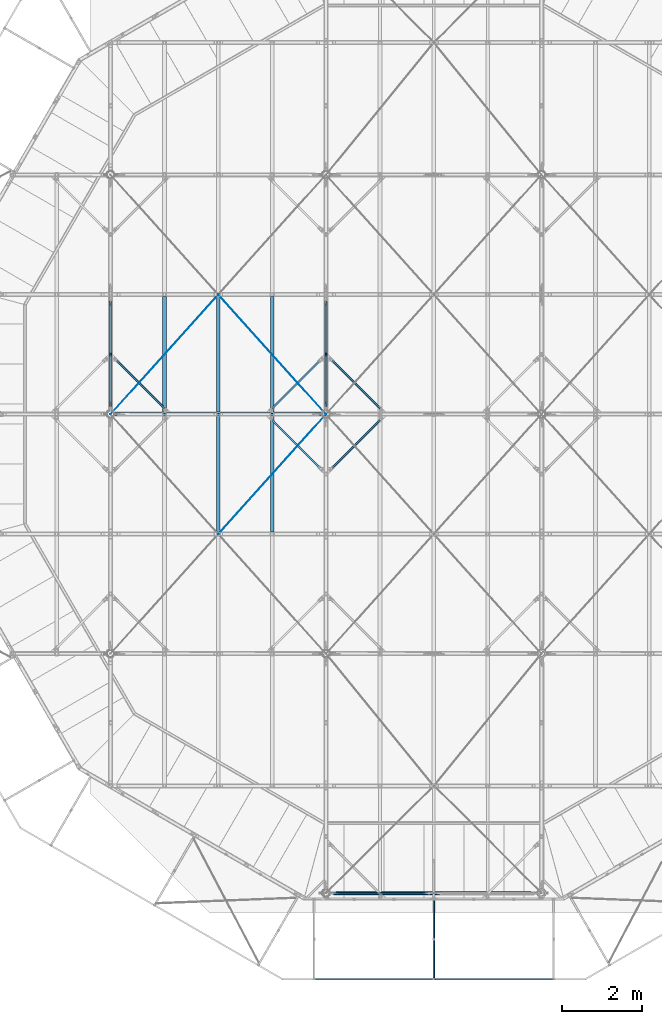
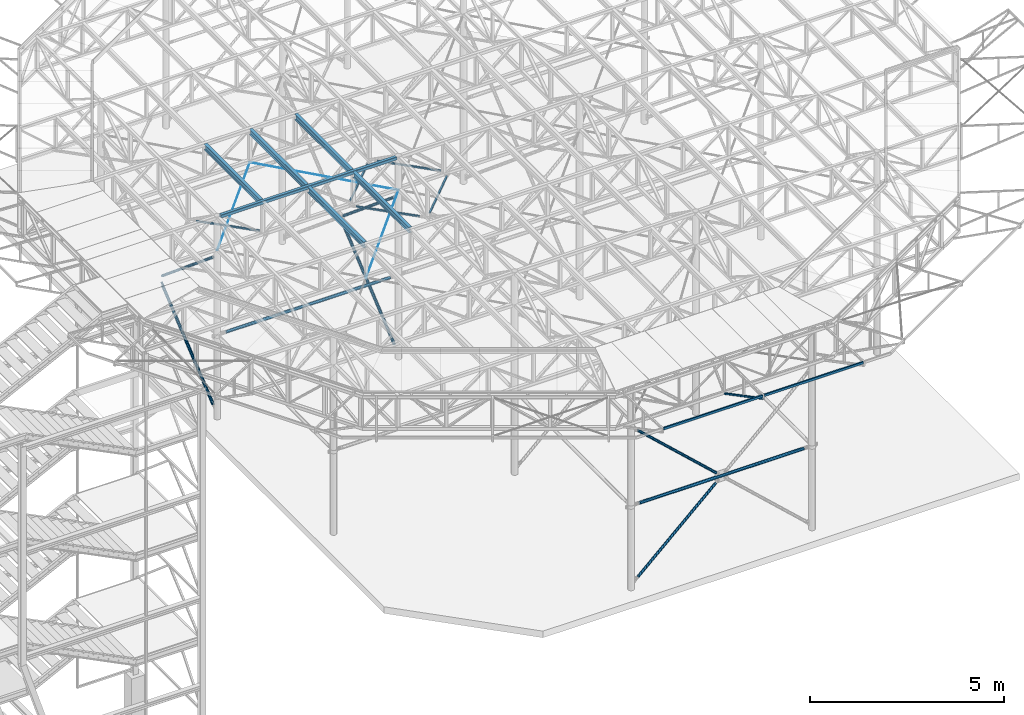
# One storey, part 10 of 132: 18 beams, 9 members, 27 elements without a shape of their own.
"""IFC2X3 building model written with IfcOpenShell, lengths in millimetres."""

from ifc_helpers import new_model, si_unit, frame, origin_with_axes, origin_2d_with_axis, place, context, subcontext, project, spatial, rectangle, hollow_rectangle, circle, hollow_circle, i_section, u_section, extrude, boolean, clip, halfspace, material, type_object, element, aggregate, save


model = new_model("IFC2X3")

# Units and contexts
model_context = context("Model", 3, precision=1e-05, world=origin_with_axes())
body_context = subcontext(model_context, "Body", "Model", "MODEL_VIEW")
ifc_project = project(units=[si_unit("LENGTHUNIT", "METRE", prefix="MILLI"), si_unit("AREAUNIT", "SQUARE_METRE"), si_unit("VOLUMEUNIT", "CUBIC_METRE"), si_unit("MASSUNIT", "GRAM", prefix="KILO"), si_unit("TIMEUNIT", "SECOND"), si_unit("PLANEANGLEUNIT", "RADIAN"), si_unit("SOLIDANGLEUNIT", "STERADIAN"), si_unit("THERMODYNAMICTEMPERATUREUNIT", "DEGREE_CELSIUS"), si_unit("LUMINOUSINTENSITYUNIT", "LUMEN")], contexts=[model_context])

# Site, building, storey
site_placement = place(None, origin_with_axes())
site = spatial("IfcSite", under=ifc_project, at=site_placement, Name="Budowa", CompositionType="ELEMENT")
building_placement = place(site_placement, origin_with_axes())
building = spatial("IfcBuilding", under=site, at=building_placement, Name="Undefined", CompositionType="ELEMENT")
storey_placement = place(building_placement, origin_with_axes())
storey = spatial("IfcBuildingStorey", under=building, at=storey_placement, Name="Undefined", CompositionType="ELEMENT", Elevation=0.0)

# Assembly, member
assembly_1_placement = place(storey_placement, origin_with_axes())
assembly_1 = element("IfcElementAssembly", 1, at=assembly_1_placement, inside=storey, Name="Steel Assembly", AssemblyPlace="NOTDEFINED", PredefinedType="RIGID_FRAME")
ifc_material_1 = material(Name="STEEL/S235JR")
member_type_1 = type_object("IfcMemberType", Name="CHS76.1*3", PredefinedType="NOTDEFINED")
member_1_placement = place(assembly_1_placement, frame((4016.9999973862, 15000.0003165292, 10116.000758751), z_axis=(1.0, 0.0, 0.0), x_axis=(0.0, -0.76906919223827, 0.639165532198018)))
member_1 = element("IfcMember", 2, at=member_1_placement, type_object=member_type_1, material=ifc_material_1, Name="BEAM", ObjectType="CHS76.1*3", context=body_context, shape_type="CSG", body=[
    boolean("DIFFERENCE", boolean("DIFFERENCE", boolean("DIFFERENCE", boolean("DIFFERENCE", extrude(hollow_circle(Radius=38.05, WallThickness=3.0, at=origin_2d_with_axis()), frame((3633.55016925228, 2.01702552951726e-13, 0.0), z_axis=(-1.0, 0.0, 0.0), x_axis=(0.0, -1.0, 0.0)), (0.0, 0.0, 1.0), 3395.69), extrude(rectangle(XDim=10.0, YDim=80.1, at=origin_2d_with_axis()), frame((318.860379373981, -4.43045600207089e-12, 2.01593366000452e-06), z_axis=(-1.0, 0.0, 0.0), x_axis=(0.0, 0.0, 1.0)), (0.0, 0.0, 1.0), 83.0)), extrude(rectangle(XDim=10.0, YDim=78.0, at=origin_2d_with_axis()), frame((3552.55016925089, 7.63649267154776e-08, 2.41727320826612e-06), z_axis=(1.0, 0.0, 0.0), x_axis=(0.0, 0.0, -1.0)), (0.0, 0.0, 1.0), 93.0)), halfspace(frame((3633.55016925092, 7.63648131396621e-08, 12.0000024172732), z_axis=(-1.0, 0.0, 0.0), x_axis=(0.0, 0.0, -1.0)), True)), halfspace(frame((237.860375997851, -1.09139364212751e-11, 12.0000032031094), z_axis=(1.0, 0.0, 0.0), x_axis=(0.0, 1.0, 0.0)), True)),
])
aggregate(assembly_1, [member_1])

assembly_2_placement = place(storey_placement, origin_with_axes())
assembly_2 = element("IfcElementAssembly", 3, at=assembly_2_placement, inside=storey, Name="Steel Assembly", AssemblyPlace="NOTDEFINED", PredefinedType="RIGID_FRAME")
member_2_placement = place(assembly_2_placement, frame((4016.99999738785, 15000.0012512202, 10116.0002562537), z_axis=(1.0, 0.0, 0.0), x_axis=(0.0, -0.769069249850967, -0.639165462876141)))
member_2 = element("IfcMember", 4, at=member_2_placement, type_object=member_type_1, material=ifc_material_1, Name="BEAM", ObjectType="CHS76.1*3", context=body_context, shape_type="CSG", body=[
    boolean("DIFFERENCE", boolean("DIFFERENCE", boolean("DIFFERENCE", boolean("DIFFERENCE", extrude(hollow_circle(Radius=38.05, WallThickness=3.0, at=origin_2d_with_axis()), frame((3633.55110961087, 0.0, 0.0), z_axis=(-1.0, 0.0, 0.0), x_axis=(0.0, -1.0, 0.0)), (0.0, 0.0, 1.0), 3395.69), extrude(rectangle(XDim=10.0, YDim=80.1, at=origin_2d_with_axis()), frame((318.860805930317, -8.477663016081e-13, 1.74539309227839e-06), z_axis=(-1.0, 0.0, 0.0), x_axis=(0.0, 0.0, 1.0)), (0.0, 0.0, 1.0), 83.0)), extrude(rectangle(XDim=10.0, YDim=78.0, at=origin_2d_with_axis()), frame((3552.55110960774, 4.53202460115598e-07, 2.41760790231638e-06), z_axis=(1.0, 0.0, 0.0), x_axis=(0.0, 0.0, -1.0)), (0.0, 0.0, 1.0), 93.0)), halfspace(frame((3633.55110960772, 4.53187567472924e-07, 12.0000024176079), z_axis=(-1.0, 0.0, 0.0), x_axis=(0.0, 0.0, -1.0)), True)), halfspace(frame((237.860802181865, 1.2732925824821e-11, 12.0000029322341), z_axis=(1.0, 0.0, 0.0), x_axis=(0.0, 1.0, 0.0)), True)),
])
aggregate(assembly_2, [member_2])

assembly_3_placement = place(storey_placement, origin_with_axes())
assembly_3 = element("IfcElementAssembly", 5, at=assembly_3_placement, inside=storey, Name="Steel Assembly", AssemblyPlace="NOTDEFINED", PredefinedType="RIGID_FRAME")
member_3_placement = place(assembly_3_placement, frame((9416.99999736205, 15000.0003165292, 10116.000758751), z_axis=(1.0, 0.0, 0.0), x_axis=(0.0, -0.76906919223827, 0.639165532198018)))
member_3 = element("IfcMember", 6, at=member_3_placement, type_object=member_type_1, material=ifc_material_1, Name="BEAM", ObjectType="CHS76.1*3", context=body_context, shape_type="CSG", body=[
    boolean("DIFFERENCE", boolean("DIFFERENCE", boolean("DIFFERENCE", boolean("DIFFERENCE", extrude(hollow_circle(Radius=38.05, WallThickness=3.0, at=origin_2d_with_axis()), frame((3633.55016925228, 2.01702552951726e-13, 0.0), z_axis=(-1.0, 0.0, 0.0), x_axis=(0.0, -1.0, 0.0)), (0.0, 0.0, 1.0), 3395.69), extrude(rectangle(XDim=10.0, YDim=80.1, at=origin_2d_with_axis()), frame((318.860379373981, -4.43045600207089e-12, 2.01593366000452e-06), z_axis=(-1.0, 0.0, 0.0), x_axis=(0.0, 0.0, 1.0)), (0.0, 0.0, 1.0), 83.0)), extrude(rectangle(XDim=10.0, YDim=78.0, at=origin_2d_with_axis()), frame((3552.55016925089, 7.63649267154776e-08, 2.41727320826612e-06), z_axis=(1.0, 0.0, 0.0), x_axis=(0.0, 0.0, -1.0)), (0.0, 0.0, 1.0), 93.0)), halfspace(frame((3633.55016925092, 7.63648131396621e-08, 12.0000024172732), z_axis=(-1.0, 0.0, 0.0), x_axis=(0.0, 0.0, -1.0)), True)), halfspace(frame((237.860375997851, -1.09139364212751e-11, 12.0000032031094), z_axis=(1.0, 0.0, 0.0), x_axis=(0.0, 1.0, 0.0)), True)),
])
aggregate(assembly_3, [member_3])

assembly_4_placement = place(storey_placement, origin_with_axes())
assembly_4 = element("IfcElementAssembly", 7, at=assembly_4_placement, inside=storey, Name="Steel Assembly", AssemblyPlace="NOTDEFINED", PredefinedType="RIGID_FRAME")
member_4_placement = place(assembly_4_placement, frame((9416.9999973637, 15000.0012512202, 10116.0002562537), z_axis=(1.0, 0.0, 0.0), x_axis=(0.0, -0.769069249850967, -0.639165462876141)))
member_4 = element("IfcMember", 8, at=member_4_placement, type_object=member_type_1, material=ifc_material_1, Name="BEAM", ObjectType="CHS76.1*3", context=body_context, shape_type="CSG", body=[
    boolean("DIFFERENCE", boolean("DIFFERENCE", boolean("DIFFERENCE", boolean("DIFFERENCE", extrude(hollow_circle(Radius=38.05, WallThickness=3.0, at=origin_2d_with_axis()), frame((3633.55110961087, 0.0, 0.0), z_axis=(-1.0, 0.0, 0.0), x_axis=(0.0, -1.0, 0.0)), (0.0, 0.0, 1.0), 3395.69), extrude(rectangle(XDim=10.0, YDim=80.1, at=origin_2d_with_axis()), frame((318.860805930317, -8.477663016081e-13, 1.74539309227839e-06), z_axis=(-1.0, 0.0, 0.0), x_axis=(0.0, 0.0, 1.0)), (0.0, 0.0, 1.0), 83.0)), extrude(rectangle(XDim=10.0, YDim=78.0, at=origin_2d_with_axis()), frame((3552.55110960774, 4.53202460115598e-07, 2.41760790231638e-06), z_axis=(1.0, 0.0, 0.0), x_axis=(0.0, 0.0, -1.0)), (0.0, 0.0, 1.0), 93.0)), halfspace(frame((3633.55110960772, 4.53187567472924e-07, 12.0000024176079), z_axis=(-1.0, 0.0, 0.0), x_axis=(0.0, 0.0, -1.0)), True)), halfspace(frame((237.860802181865, 1.2732925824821e-11, 12.0000029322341), z_axis=(1.0, 0.0, 0.0), x_axis=(0.0, 1.0, 0.0)), True)),
])
aggregate(assembly_4, [member_4])

assembly_5_placement = place(storey_placement, origin_with_axes())
assembly_5 = element("IfcElementAssembly", 9, at=assembly_5_placement, inside=storey, Name="Steel Assembly", AssemblyPlace="NOTDEFINED", PredefinedType="RIGID_FRAME")
member_5_placement = place(assembly_5_placement, frame((12125.000921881, -9.99999994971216, 10115.9999960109), z_axis=(0.0, -1.0, 0.0), x_axis=(-0.734552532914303, 0.0, -0.67855182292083)))
member_5 = element("IfcMember", 10, at=member_5_placement, type_object=member_type_1, material=ifc_material_1, Name="BEAM", ObjectType="CHS76.1*3", context=body_context, shape_type="CSG", body=[
    boolean("DIFFERENCE", boolean("DIFFERENCE", boolean("DIFFERENCE", boolean("DIFFERENCE", extrude(hollow_circle(Radius=38.05, WallThickness=3.0, at=origin_2d_with_axis()), frame((3399.19882110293, 0.0, 0.0), z_axis=(-1.0, 0.0, 0.0), x_axis=(0.0, -1.0, 0.0)), (0.0, 0.0, 1.0), 3169.77), extrude(rectangle(XDim=10.0, YDim=80.1, at=origin_2d_with_axis()), frame((310.424006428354, -6.75809408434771e-12, 2.93223274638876e-06), z_axis=(-1.0, 0.0, 0.0), x_axis=(0.0, 0.0, -1.0)), (0.0, 0.0, 1.0), 83.0)), extrude(rectangle(XDim=10.0, YDim=78.1, at=origin_2d_with_axis()), frame((3318.19882110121, -3.83376469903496e-07, 2.42306487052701e-06), z_axis=(1.0, 0.0, 0.0), x_axis=(0.0, 0.0, -1.0)), (0.0, 0.0, 1.0), 93.0)), halfspace(frame((3399.19882110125, -3.83374754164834e-07, -11.9999975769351), z_axis=(-1.0, 0.0, 0.0), x_axis=(0.0, 1.0, 0.0)), True)), halfspace(frame((229.424006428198, -7.27595761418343e-12, -11.9999970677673), z_axis=(1.0, 0.0, 0.0), x_axis=(0.0, -1.0, 0.0)), True)),
])
aggregate(assembly_5, [member_5])

assembly_6_placement = place(storey_placement, origin_with_axes())
assembly_6 = element("IfcElementAssembly", 11, at=assembly_6_placement, inside=storey, Name="Steel Assembly", AssemblyPlace="NOTDEFINED", PredefinedType="RIGID_FRAME")
member_6_placement = place(assembly_6_placement, frame((9565.9011839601, -9.99999994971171, 12480.0002212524), z_axis=(0.0, -1.0, 0.0), x_axis=(0.734552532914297, 0.0, -0.678551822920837)))
member_6 = element("IfcMember", 12, at=member_6_placement, type_object=member_type_1, material=ifc_material_1, Name="BEAM", ObjectType="CHS76.1*3", context=body_context, shape_type="CSG", body=[
    boolean("DIFFERENCE", boolean("DIFFERENCE", boolean("DIFFERENCE", boolean("DIFFERENCE", extrude(hollow_circle(Radius=38.05, WallThickness=3.0, at=origin_2d_with_axis()), frame((3254.46533546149, 0.0, 0.0), z_axis=(-1.0, 0.0, 0.0), x_axis=(0.0, -1.0, 0.0)), (0.0, 0.0, 1.0), 3169.77), extrude(rectangle(XDim=10.0, YDim=80.1, at=origin_2d_with_axis()), frame((3173.46533545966, 5.74262859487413e-12, 3.21735569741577e-06), z_axis=(1.0, 0.0, 0.0), x_axis=(0.0, 0.0, -1.0)), (0.0, 0.0, 1.0), 83.0)), extrude(rectangle(XDim=10.0, YDim=78.1, at=origin_2d_with_axis()), frame((165.690516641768, -1.58151269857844e-12, 2.52268364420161e-06), z_axis=(-1.0, 0.0, 0.0), x_axis=(0.0, 0.0, -1.0)), (0.0, 0.0, 1.0), 93.0)), halfspace(frame((3254.46533545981, 3.63797880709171e-12, -11.9999967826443), z_axis=(-1.0, 0.0, 0.0), x_axis=(0.0, 1.0, 0.0)), True)), halfspace(frame((84.6905166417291, 1.81898940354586e-12, -11.9999974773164), z_axis=(1.0, 0.0, 0.0), x_axis=(0.0, -1.0, 0.0)), True)),
])
aggregate(assembly_6, [member_6])

# Assembly, beam
assembly_7_placement = place(storey_placement, origin_with_axes())
assembly_7 = element("IfcElementAssembly", 13, at=assembly_7_placement, inside=storey, Name="Steel Assembly", AssemblyPlace="NOTDEFINED", PredefinedType="RIGID_FRAME")
beam_type_1 = type_object("IfcBeamType", Name="CHS88.9*3", PredefinedType="NOTDEFINED")
beam_1_placement = place(assembly_7_placement, frame((4113.90113815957, 11998.0000028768, 10116.0003779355), z_axis=(0.0, -1.0, 0.0), x_axis=(1.0, 0.0, 0.0)))
beam_1 = element("IfcBeam", 14, at=beam_1_placement, type_object=beam_type_1, material=ifc_material_1, Name="BEAM", ObjectType="CHS88.9*3", context=body_context, shape_type="CSG", body=[
    boolean("DIFFERENCE", boolean("DIFFERENCE", boolean("DIFFERENCE", boolean("DIFFERENCE", boolean("DIFFERENCE", extrude(hollow_circle(Radius=44.45, WallThickness=3.0, at=origin_2d_with_axis()), frame((5057.96216744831, 0.0, 0.0), z_axis=(-1.0, 0.0, 0.0), x_axis=(0.0, -1.0, 0.0)), (0.0, 0.0, 1.0), 4893.73), extrude(rectangle(XDim=9.0, YDim=92.9, at=origin_2d_with_axis()), frame((265.235555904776, 1.81898940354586e-12, 3.42543353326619e-06), z_axis=(-1.0, 0.0, 0.0), x_axis=(0.0, 0.0, 1.0)), (0.0, 0.0, 1.0), 103.0)), extrude(rectangle(XDim=9.0, YDim=92.9, at=origin_2d_with_axis()), frame((4956.96216744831, 1.81898940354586e-12, 3.42543353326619e-06), z_axis=(1.0, 0.0, 0.0), x_axis=(0.0, 0.0, -1.0)), (0.0, 0.0, 1.0), 103.0)), extrude(rectangle(XDim=8.0, YDim=80.1, at=origin_2d_with_axis()), frame((5006.96216666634, 0.0, 2.93223274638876e-06), z_axis=(1.0, 0.0, 0.0), x_axis=(0.0, 0.0, 1.0)), (0.0, 0.0, 1.0), 82.0)), halfspace(frame((5057.96216744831, 1.81898940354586e-12, -11.9999965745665), z_axis=(-1.0, 0.0, 0.0), x_axis=(0.0, 1.0, 0.0)), True)), halfspace(frame((164.235555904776, 1.81898940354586e-12, -11.9999965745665), z_axis=(1.0, 0.0, 0.0), x_axis=(0.0, 0.0, 1.0)), True)),
])
aggregate(assembly_7, [beam_1])

assembly_8_placement = place(storey_placement, origin_with_axes())
assembly_8 = element("IfcElementAssembly", 15, at=assembly_8_placement, inside=storey, Name="Steel Assembly", AssemblyPlace="NOTDEFINED", PredefinedType="RIGID_FRAME")
beam_2_placement = place(assembly_8_placement, frame((9513.90113818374, -1.99999712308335, 10116.0003779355), z_axis=(0.0, -1.0, 0.0), x_axis=(1.0, 0.0, 0.0)))
beam_2 = element("IfcBeam", 16, at=beam_2_placement, type_object=beam_type_1, material=ifc_material_1, Name="BEAM", ObjectType="CHS88.9*3", context=body_context, shape_type="CSG", body=[
    boolean("DIFFERENCE", boolean("DIFFERENCE", boolean("DIFFERENCE", boolean("DIFFERENCE", boolean("DIFFERENCE", extrude(hollow_circle(Radius=44.45, WallThickness=3.0, at=origin_2d_with_axis()), frame((5057.96216744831, 0.0, 0.0), z_axis=(-1.0, 0.0, 0.0), x_axis=(0.0, -1.0, 0.0)), (0.0, 0.0, 1.0), 4893.73), extrude(rectangle(XDim=9.0, YDim=92.9, at=origin_2d_with_axis()), frame((265.235555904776, 1.81898940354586e-12, 3.42543353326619e-06), z_axis=(-1.0, 0.0, 0.0), x_axis=(0.0, 0.0, 1.0)), (0.0, 0.0, 1.0), 103.0)), extrude(rectangle(XDim=9.0, YDim=92.9, at=origin_2d_with_axis()), frame((4956.96216744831, 1.81898940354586e-12, 3.42543353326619e-06), z_axis=(1.0, 0.0, 0.0), x_axis=(0.0, 0.0, -1.0)), (0.0, 0.0, 1.0), 103.0)), extrude(rectangle(XDim=8.0, YDim=80.1, at=origin_2d_with_axis()), frame((5006.96216666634, 0.0, 2.93223274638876e-06), z_axis=(1.0, 0.0, 0.0), x_axis=(0.0, 0.0, 1.0)), (0.0, 0.0, 1.0), 82.0)), halfspace(frame((5057.96216744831, 1.81898940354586e-12, -11.9999965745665), z_axis=(-1.0, 0.0, 0.0), x_axis=(0.0, 1.0, 0.0)), True)), halfspace(frame((164.235555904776, 1.81898940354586e-12, -11.9999965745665), z_axis=(1.0, 0.0, 0.0), x_axis=(0.0, 0.0, 1.0)), True)),
])
aggregate(assembly_8, [beam_2])

# Assembly, member
assembly_9_placement = place(storey_placement, origin_with_axes())
assembly_9 = element("IfcElementAssembly", 17, at=assembly_9_placement, inside=storey, Name="Steel Assembly", AssemblyPlace="NOTDEFINED", PredefinedType="RIGID_FRAME")
ifc_material_2 = material(Name="STEEL/S235")
member_type_2 = type_object("IfcMemberType", Name="CHS60.3*6.3", PredefinedType="NOTDEFINED")
member_7_placement = place(assembly_9_placement, frame((4033.00000233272, 15000.0012512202, 10116.0002562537), z_axis=(-1.0, 0.0, 0.0), x_axis=(0.0, -0.769069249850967, -0.639165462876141)))
member_7 = element("IfcMember", 18, at=member_7_placement, type_object=member_type_2, material=ifc_material_2, Name="BEAM", ObjectType="CHS60.3*6.3", context=body_context, shape_type="CSG", body=[
    boolean("DIFFERENCE", boolean("DIFFERENCE", boolean("DIFFERENCE", boolean("DIFFERENCE", extrude(hollow_circle(Radius=30.15, WallThickness=6.3, at=origin_2d_with_axis()), frame((3643.55110941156, 0.0, 0.0), z_axis=(-1.0, 0.0, 0.0), x_axis=(0.0, -1.0, 0.0)), (0.0, 0.0, 1.0), 3497.1), extrude(rectangle(XDim=8.0, YDim=64.3, at=origin_2d_with_axis()), frame((3593.55110940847, -4.69471128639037e-11, 2.68942449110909e-06), z_axis=(1.0, 0.0, 0.0), x_axis=(0.0, 0.0, 1.0)), (0.0, 0.0, 1.0), 52.0)), extrude(rectangle(XDim=8.0, YDim=64.3, at=origin_2d_with_axis()), frame((196.449653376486, -1.06803454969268e-13, 2.32343882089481e-06), z_axis=(-1.0, 0.0, 0.0), x_axis=(0.0, 0.0, 1.0)), (0.0, 0.0, 1.0), 52.0)), halfspace(frame((3643.55110940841, -4.72937244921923e-11, 12.0000026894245), z_axis=(-1.0, 0.0, 0.0), x_axis=(0.0, -1.0, 0.0)), True)), halfspace(frame((146.449653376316, -6.3664629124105e-12, 12.0000023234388), z_axis=(1.0, 0.0, 0.0), x_axis=(0.0, 1.0, 0.0)), True)),
])
aggregate(assembly_9, [member_7])

assembly_10_placement = place(storey_placement, origin_with_axes())
assembly_10 = element("IfcElementAssembly", 19, at=assembly_10_placement, inside=storey, Name="Steel Assembly", AssemblyPlace="NOTDEFINED", PredefinedType="RIGID_FRAME")
member_8_placement = place(assembly_10_placement, frame((9433.00000235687, 15000.0012512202, 10116.0002562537), z_axis=(-1.0, 0.0, 0.0), x_axis=(0.0, -0.769069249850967, -0.639165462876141)))
member_8 = element("IfcMember", 20, at=member_8_placement, type_object=member_type_2, material=ifc_material_2, Name="BEAM", ObjectType="CHS60.3*6.3", context=body_context, shape_type="CSG", body=[
    boolean("DIFFERENCE", boolean("DIFFERENCE", boolean("DIFFERENCE", boolean("DIFFERENCE", extrude(hollow_circle(Radius=30.15, WallThickness=6.3, at=origin_2d_with_axis()), frame((3643.55110941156, 0.0, 0.0), z_axis=(-1.0, 0.0, 0.0), x_axis=(0.0, -1.0, 0.0)), (0.0, 0.0, 1.0), 3497.1), extrude(rectangle(XDim=8.0, YDim=64.3, at=origin_2d_with_axis()), frame((3593.55110940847, -4.69471128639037e-11, 2.68942449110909e-06), z_axis=(1.0, 0.0, 0.0), x_axis=(0.0, 0.0, 1.0)), (0.0, 0.0, 1.0), 52.0)), extrude(rectangle(XDim=8.0, YDim=64.3, at=origin_2d_with_axis()), frame((196.449653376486, -1.06803454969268e-13, 2.32343882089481e-06), z_axis=(-1.0, 0.0, 0.0), x_axis=(0.0, 0.0, 1.0)), (0.0, 0.0, 1.0), 52.0)), halfspace(frame((3643.55110940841, -4.72937244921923e-11, 12.0000026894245), z_axis=(-1.0, 0.0, 0.0), x_axis=(0.0, -1.0, 0.0)), True)), halfspace(frame((146.449653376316, -6.3664629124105e-12, 12.0000023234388), z_axis=(1.0, 0.0, 0.0), x_axis=(0.0, 1.0, 0.0)), True)),
])
aggregate(assembly_10, [member_8])

# Assembly, beam
assembly_11_placement = place(storey_placement, origin_with_axes())
assembly_11 = element("IfcElementAssembly", 21, at=assembly_11_placement, inside=storey, Name="Steel Assembly", AssemblyPlace="NOTDEFINED", PredefinedType="RIGID_FRAME")
beam_type_2 = type_object("IfcBeamType", Name="IPE180", PredefinedType="NOTDEFINED")
beam_3_placement = place(assembly_11_placement, frame((5374.99999993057, 12050.000000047, 13790.0), z_axis=(0.0, 0.0, 1.0), x_axis=(0.0, 1.0, 0.0)))
beam_3 = element("IfcBeam", 22, at=beam_3_placement, type_object=beam_type_2, material=ifc_material_2, Name="BEAM", ObjectType="IPE180", context=body_context, shape_type="SweptSolid", body=[
    extrude(i_section(OverallWidth=91.0, OverallDepth=180.0, WebThickness=5.300000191, FlangeThickness=8.0, FilletRadius=9.0, at=origin_2d_with_axis()), frame((2900.00000000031, 0.0, 0.0), z_axis=(-1.0, 0.0, 0.0), x_axis=(0.0, -1.0, 0.0)), (0.0, 0.0, 1.0), 2900.0),
])
aggregate(assembly_11, [beam_3])

assembly_12_placement = place(storey_placement, origin_with_axes())
assembly_12 = element("IfcElementAssembly", 23, at=assembly_12_placement, inside=storey, Name="Steel Assembly", AssemblyPlace="NOTDEFINED", PredefinedType="RIGID_FRAME")
beam_4_placement = place(assembly_12_placement, frame((8074.99999993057, 12050.000000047, 13790.0), z_axis=(0.0, 0.0, 1.0), x_axis=(0.0, 1.0, 0.0)))
beam_4 = element("IfcBeam", 24, at=beam_4_placement, type_object=beam_type_2, material=ifc_material_2, Name="BEAM", ObjectType="IPE180", context=body_context, shape_type="SweptSolid", body=[
    extrude(i_section(OverallWidth=91.0, OverallDepth=180.0, WebThickness=5.300000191, FlangeThickness=8.0, FilletRadius=9.0, at=origin_2d_with_axis()), frame((2900.00000000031, 0.0, 0.0), z_axis=(-1.0, 0.0, 0.0), x_axis=(0.0, -1.0, 0.0)), (0.0, 0.0, 1.0), 2900.0),
])
aggregate(assembly_12, [beam_4])

assembly_13_placement = place(storey_placement, origin_with_axes())
assembly_13 = element("IfcElementAssembly", 25, at=assembly_13_placement, inside=storey, Name="Steel Assembly", AssemblyPlace="NOTDEFINED", PredefinedType="RIGID_FRAME")
beam_5_placement = place(assembly_13_placement, frame((8074.99999993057, 9050.00000004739, 13790.0), z_axis=(0.0, 0.0, 1.0), x_axis=(0.0, 1.0, 0.0)))
beam_5 = element("IfcBeam", 26, at=beam_5_placement, type_object=beam_type_2, material=ifc_material_2, Name="BEAM", ObjectType="IPE180", context=body_context, shape_type="SweptSolid", body=[
    extrude(i_section(OverallWidth=91.0, OverallDepth=180.0, WebThickness=5.300000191, FlangeThickness=8.0, FilletRadius=9.0, at=origin_2d_with_axis()), frame((2900.00000000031, 0.0, 0.0), z_axis=(-1.0, 0.0, 0.0), x_axis=(0.0, -1.0, 0.0)), (0.0, 0.0, 1.0), 2900.0),
])
aggregate(assembly_13, [beam_5])

assembly_14_placement = place(storey_placement, origin_with_axes())
assembly_14 = element("IfcElementAssembly", 27, at=assembly_14_placement, inside=storey, Name="Steel Assembly", AssemblyPlace="NOTDEFINED", PredefinedType="RIGID_FRAME")
beam_6_placement = place(assembly_14_placement, frame((6724.99999993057, 12050.000000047, 13790.0), z_axis=(0.0, 0.0, 1.0), x_axis=(0.0, 1.0, 0.0)))
beam_6 = element("IfcBeam", 28, at=beam_6_placement, type_object=beam_type_2, material=ifc_material_2, Name="BEAM", ObjectType="IPE180", context=body_context, shape_type="SweptSolid", body=[
    extrude(i_section(OverallWidth=91.0, OverallDepth=180.0, WebThickness=5.300000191, FlangeThickness=8.0, FilletRadius=9.0, at=origin_2d_with_axis()), frame((2900.00000000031, 0.0, 0.0), z_axis=(-1.0, 0.0, 0.0), x_axis=(0.0, -1.0, 0.0)), (0.0, 0.0, 1.0), 2900.0),
])
aggregate(assembly_14, [beam_6])

assembly_15_placement = place(storey_placement, origin_with_axes())
assembly_15 = element("IfcElementAssembly", 29, at=assembly_15_placement, inside=storey, Name="Steel Assembly", AssemblyPlace="NOTDEFINED", PredefinedType="RIGID_FRAME")
beam_7_placement = place(assembly_15_placement, frame((6724.99999993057, 9050.00000004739, 13790.0), z_axis=(0.0, 0.0, 1.0), x_axis=(0.0, 1.0, 0.0)))
beam_7 = element("IfcBeam", 30, at=beam_7_placement, type_object=beam_type_2, material=ifc_material_2, Name="BEAM", ObjectType="IPE180", context=body_context, shape_type="SweptSolid", body=[
    extrude(i_section(OverallWidth=91.0, OverallDepth=180.0, WebThickness=5.300000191, FlangeThickness=8.0, FilletRadius=9.0, at=origin_2d_with_axis()), frame((2900.00000000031, 0.0, 0.0), z_axis=(-1.0, 0.0, 0.0), x_axis=(0.0, -1.0, 0.0)), (0.0, 0.0, 1.0), 2900.0),
])
aggregate(assembly_15, [beam_7])

assembly_16_placement = place(storey_placement, origin_with_axes())
assembly_16 = element("IfcElementAssembly", 31, at=assembly_16_placement, inside=storey, Name="Steel Assembly", AssemblyPlace="NOTDEFINED", PredefinedType="RIGID_FRAME")
beam_type_3 = type_object("IfcBeamType", Name="C70*40*4", PredefinedType="NOTDEFINED")
beam_8_placement = place(assembly_16_placement, frame((12149.9999999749, -2155.00038123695, 13945.0050191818), z_axis=(0.0, 0.0, -1.0), x_axis=(1.0, 0.0, 0.0)))
beam_8 = element("IfcBeam", 32, at=beam_8_placement, type_object=beam_type_3, material=ifc_material_2, Name="BEAM", ObjectType="C70*40*4", context=body_context, shape_type="SweptSolid", body=[
    extrude(u_section(Depth=70.0, FlangeWidth=40.0, WebThickness=4.0, FlangeThickness=4.0, FilletRadius=6.0, at=origin_2d_with_axis()), frame((2949.99999995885, 1.63757896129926e-13, 0.0), z_axis=(-1.0, 0.0, 0.0), x_axis=(0.0, -1.0, 0.0)), (0.0, 0.0, 1.0), 2950.0),
])
aggregate(assembly_16, [beam_8])

assembly_17_placement = place(storey_placement, origin_with_axes())
assembly_17 = element("IfcElementAssembly", 33, at=assembly_17_placement, inside=storey, Name="Steel Assembly", AssemblyPlace="NOTDEFINED", PredefinedType="RIGID_FRAME")
beam_9_placement = place(assembly_17_placement, frame((9149.99999998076, -2155.00038123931, 13945.0050191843), z_axis=(0.0, 0.0, -1.0), x_axis=(1.0, 0.0, 0.0)))
beam_9 = element("IfcBeam", 34, at=beam_9_placement, type_object=beam_type_3, material=ifc_material_2, Name="BEAM", ObjectType="C70*40*4", context=body_context, shape_type="SweptSolid", body=[
    extrude(u_section(Depth=70.0, FlangeWidth=40.0, WebThickness=4.0, FlangeThickness=4.0, FilletRadius=6.0, at=origin_2d_with_axis()), frame((2949.99999995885, 1.63757896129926e-13, 0.0), z_axis=(-1.0, 0.0, 0.0), x_axis=(0.0, -1.0, 0.0)), (0.0, 0.0, 1.0), 2950.0),
])
aggregate(assembly_17, [beam_9])

# Assembly, member
assembly_18_placement = place(storey_placement, origin_with_axes())
assembly_18 = element("IfcElementAssembly", 35, at=assembly_18_placement, inside=storey, Name="Steel Assembly", AssemblyPlace="NOTDEFINED", PredefinedType="RIGID_FRAME")
member_type_3 = type_object("IfcMemberType", Name="SHS50*4", PredefinedType="NOTDEFINED")
member_9_placement = place(assembly_18_placement, frame((12124.9999999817, -163.279610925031, 12802.1351883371), z_axis=(1.0, 0.0, 0.0), x_axis=(0.0, -0.885407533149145, 0.464815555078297)))
member_9 = element("IfcMember", 36, at=member_9_placement, type_object=member_type_3, material=ifc_material_2, Name="BEAM", ObjectType="SHS50*4", context=body_context, shape_type="Clipping", body=[
    clip(clip(extrude(hollow_rectangle(XDim=50.0, YDim=50.0, WallThickness=4.0, InnerFilletRadius=4.0, OuterFilletRadius=8.0, at=origin_2d_with_axis()), frame((2286.55526217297, 7.105427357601e-15, -1.81898940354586e-12), z_axis=(-1.0, 0.0, 0.0), x_axis=(0.0, -1.0, 0.0)), (0.0, 0.0, 1.0), 2286.56), halfspace(frame((26.2486785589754, -24.9999999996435, -25.0000000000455), z_axis=(-0.885407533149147, -0.464815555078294, 0.0), x_axis=(-0.464815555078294, 0.885407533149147, 0.0)), False)), halfspace(frame((2258.9602037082, 25.0000000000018, -1.41881173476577e-10), z_axis=(-0.855808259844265, 0.517293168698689, 0.0), x_axis=(0.0, 0.0, 1.0)), True)),
])
aggregate(assembly_18, [member_9])

# Assembly, beam
assembly_19_placement = place(storey_placement, origin_with_axes())
assembly_19 = element("IfcElementAssembly", 37, at=assembly_19_placement, inside=storey, Name="Steel Assembly", AssemblyPlace="NOTDEFINED", PredefinedType="RIGID_FRAME")
beam_type_4 = type_object("IfcBeamType", Name="D16", PredefinedType="NOTDEFINED")
beam_10_placement = place(assembly_19_placement, frame((6724.99999859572, 15000.0000000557, 12780.0), z_axis=(0.0, 0.0, 1.0), x_axis=(-0.668964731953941, -0.743294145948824, 0.0)))
beam_10 = element("IfcBeam", 38, at=beam_10_placement, type_object=beam_type_4, material=ifc_material_2, Name="BEAM", ObjectType="D16", context=body_context, shape_type="SweptSolid", body=[
    extrude(circle(Radius=8.0, at=origin_2d_with_axis()), frame((4036.08721501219, 2.30699503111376e-13, 1.81898940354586e-12), z_axis=(-1.0, 0.0, 0.0), x_axis=(0.0, -1.0, 0.0)), (0.0, 0.0, 1.0), 4036.09),
])
aggregate(assembly_19, [beam_10])

assembly_20_placement = place(storey_placement, origin_with_axes())
assembly_20 = element("IfcElementAssembly", 39, at=assembly_20_placement, inside=storey, Name="Steel Assembly", AssemblyPlace="NOTDEFINED", PredefinedType="RIGID_FRAME")
beam_11_placement = place(assembly_20_placement, frame((9424.99999994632, 12000.0000000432, 12780.0), z_axis=(0.0, 0.0, 1.0), x_axis=(-0.668964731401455, 0.743294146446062, 0.0)))
beam_11 = element("IfcBeam", 40, at=beam_11_placement, type_object=beam_type_4, material=ifc_material_2, Name="BEAM", ObjectType="D16", context=body_context, shape_type="SweptSolid", body=[
    extrude(circle(Radius=8.0, at=origin_2d_with_axis()), frame((4036.08721501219, 2.30699503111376e-13, 1.81898940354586e-12), z_axis=(-1.0, 0.0, 0.0), x_axis=(0.0, -1.0, 0.0)), (0.0, 0.0, 1.0), 4036.09),
])
aggregate(assembly_20, [beam_11])

assembly_21_placement = place(storey_placement, origin_with_axes())
assembly_21 = element("IfcElementAssembly", 41, at=assembly_21_placement, inside=storey, Name="Steel Assembly", AssemblyPlace="NOTDEFINED", PredefinedType="RIGID_FRAME")
beam_12_placement = place(assembly_21_placement, frame((9424.99999994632, 12000.0000000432, 12780.0), z_axis=(0.0, 0.0, 1.0), x_axis=(-0.668964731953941, -0.743294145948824, 0.0)))
beam_12 = element("IfcBeam", 42, at=beam_12_placement, type_object=beam_type_4, material=ifc_material_2, Name="BEAM", ObjectType="D16", context=body_context, shape_type="SweptSolid", body=[
    extrude(circle(Radius=8.0, at=origin_2d_with_axis()), frame((4036.08721501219, 2.30699503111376e-13, 1.81898940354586e-12), z_axis=(-1.0, 0.0, 0.0), x_axis=(0.0, -1.0, 0.0)), (0.0, 0.0, 1.0), 4036.09),
])
aggregate(assembly_21, [beam_12])

assembly_22_placement = place(storey_placement, origin_with_axes())
assembly_22 = element("IfcElementAssembly", 43, at=assembly_22_placement, inside=storey, Name="Steel Assembly", AssemblyPlace="NOTDEFINED", PredefinedType="RIGID_FRAME")
beam_type_5 = type_object("IfcBeamType", Name="SHS50*5", PredefinedType="NOTDEFINED")
beam_13_placement = place(assembly_22_placement, frame((3774.99999992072, 13749.8000001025, 12830.0), z_axis=(0.0, 0.0, 1.0), x_axis=(0.707106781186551, -0.707106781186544, 0.0)))
beam_13 = element("IfcBeam", 44, at=beam_13_placement, type_object=beam_type_5, material=ifc_material_2, Name="BEAM", ObjectType="SHS50*5", context=body_context, shape_type="Clipping", body=[
    clip(clip(extrude(hollow_rectangle(XDim=50.0, YDim=50.0, WallThickness=5.0, InnerFilletRadius=5.0, OuterFilletRadius=10.0, at=origin_2d_with_axis()), frame((2264.08122086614, 0.0, 0.0), z_axis=(-1.0, 0.0, 0.0), x_axis=(0.0, -1.0, 0.0)), (0.0, 0.0, 1.0), 1700.02), halfspace(frame((2264.08122086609, 9.09494701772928e-11, -9.0), z_axis=(-1.0, 0.0, 0.0), x_axis=(0.0, 1.0, 0.0)), True)), halfspace(frame((564.063061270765, -1.43882061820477e-09, -8.99999999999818), z_axis=(1.0, 0.0, 0.0), x_axis=(0.0, -1.0, 0.0)), True)),
])
aggregate(assembly_22, [beam_13])

assembly_23_placement = place(storey_placement, origin_with_axes())
assembly_23 = element("IfcElementAssembly", 45, at=assembly_23_placement, inside=storey, Name="Steel Assembly", AssemblyPlace="NOTDEFINED", PredefinedType="RIGID_FRAME")
beam_14_placement = place(assembly_23_placement, frame((9174.99999994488, 13749.8000001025, 12830.0), z_axis=(0.0, 0.0, 1.0), x_axis=(0.707106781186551, -0.707106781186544, 0.0)))
beam_14 = element("IfcBeam", 46, at=beam_14_placement, type_object=beam_type_5, material=ifc_material_2, Name="BEAM", ObjectType="SHS50*5", context=body_context, shape_type="Clipping", body=[
    clip(clip(extrude(hollow_rectangle(XDim=50.0, YDim=50.0, WallThickness=5.0, InnerFilletRadius=5.0, OuterFilletRadius=10.0, at=origin_2d_with_axis()), frame((2264.08122086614, 0.0, 0.0), z_axis=(-1.0, 0.0, 0.0), x_axis=(0.0, -1.0, 0.0)), (0.0, 0.0, 1.0), 1700.02), halfspace(frame((2264.08122086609, 9.09494701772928e-11, -9.0), z_axis=(-1.0, 0.0, 0.0), x_axis=(0.0, 1.0, 0.0)), True)), halfspace(frame((564.063061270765, -1.43882061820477e-09, -8.99999999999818), z_axis=(1.0, 0.0, 0.0), x_axis=(0.0, -1.0, 0.0)), True)),
])
aggregate(assembly_23, [beam_14])

assembly_24_placement = place(storey_placement, origin_with_axes())
assembly_24 = element("IfcElementAssembly", 47, at=assembly_24_placement, inside=storey, Name="Steel Assembly", AssemblyPlace="NOTDEFINED", PredefinedType="RIGID_FRAME")
beam_15_placement = place(assembly_24_placement, frame((9174.99999994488, 10250.0000000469, 12830.0), z_axis=(0.0, 0.0, 1.0), x_axis=(0.707106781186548, 0.707106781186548, 0.0)))
beam_15 = element("IfcBeam", 48, at=beam_15_placement, type_object=beam_type_5, material=ifc_material_2, Name="BEAM", ObjectType="SHS50*5", context=body_context, shape_type="Clipping", body=[
    clip(clip(extrude(hollow_rectangle(XDim=50.0, YDim=50.0, WallThickness=5.0, InnerFilletRadius=5.0, OuterFilletRadius=10.0, at=origin_2d_with_axis()), frame((2264.36406349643, -1.81898940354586e-12, 1.81898940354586e-12), z_axis=(-1.0, 0.0, 0.0), x_axis=(0.0, -1.0, 0.0)), (0.0, 0.0, 1.0), 1700.3), halfspace(frame((2264.36406350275, 1.44245859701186e-09, -8.99999999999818), z_axis=(-1.0, 0.0, 0.0), x_axis=(0.0, 1.0, 0.0)), True)), halfspace(frame((564.063061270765, -1.43882061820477e-09, -8.99999999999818), z_axis=(1.0, 0.0, 0.0), x_axis=(0.0, -1.0, 0.0)), True)),
])
aggregate(assembly_24, [beam_15])

assembly_25_placement = place(storey_placement, origin_with_axes())
assembly_25 = element("IfcElementAssembly", 49, at=assembly_25_placement, inside=storey, Name="Steel Assembly", AssemblyPlace="NOTDEFINED", PredefinedType="RIGID_FRAME")
beam_16_placement = place(assembly_25_placement, frame((9674.99999994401, 13749.8000001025, 12830.0), z_axis=(0.0, 0.0, 1.0), x_axis=(-0.70710678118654, -0.707106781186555, 0.0)))
beam_16 = element("IfcBeam", 50, at=beam_16_placement, type_object=beam_type_5, material=ifc_material_2, Name="BEAM", ObjectType="SHS50*5", context=body_context, shape_type="Clipping", body=[
    clip(clip(extrude(hollow_rectangle(XDim=50.0, YDim=50.0, WallThickness=5.0, InnerFilletRadius=5.0, OuterFilletRadius=10.0, at=origin_2d_with_axis()), frame((2264.08122086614, 0.0, 0.0), z_axis=(-1.0, 0.0, 0.0), x_axis=(0.0, -1.0, 0.0)), (0.0, 0.0, 1.0), 1700.02), halfspace(frame((2264.08122086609, 9.09494701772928e-11, -9.0), z_axis=(-1.0, 0.0, 0.0), x_axis=(0.0, 1.0, 0.0)), True)), halfspace(frame((564.063061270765, -1.43882061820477e-09, -8.99999999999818), z_axis=(1.0, 0.0, 0.0), x_axis=(0.0, -1.0, 0.0)), True)),
])
aggregate(assembly_25, [beam_16])

assembly_26_placement = place(storey_placement, origin_with_axes())
assembly_26 = element("IfcElementAssembly", 51, at=assembly_26_placement, inside=storey, Name="Steel Assembly", AssemblyPlace="NOTDEFINED", PredefinedType="RIGID_FRAME")
beam_17_placement = place(assembly_26_placement, frame((9674.99999994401, 10250.0000000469, 12830.0), z_axis=(0.0, 0.0, 1.0), x_axis=(-0.707106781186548, 0.707106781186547, 0.0)))
beam_17 = element("IfcBeam", 52, at=beam_17_placement, type_object=beam_type_5, material=ifc_material_2, Name="BEAM", ObjectType="SHS50*5", context=body_context, shape_type="Clipping", body=[
    clip(clip(extrude(hollow_rectangle(XDim=50.0, YDim=50.0, WallThickness=5.0, InnerFilletRadius=5.0, OuterFilletRadius=10.0, at=origin_2d_with_axis()), frame((2264.36406349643, -1.81898940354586e-12, 1.81898940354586e-12), z_axis=(-1.0, 0.0, 0.0), x_axis=(0.0, -1.0, 0.0)), (0.0, 0.0, 1.0), 1700.3), halfspace(frame((2264.36406350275, 1.44245859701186e-09, -8.99999999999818), z_axis=(-1.0, 0.0, 0.0), x_axis=(0.0, 1.0, 0.0)), True)), halfspace(frame((564.063061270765, -1.43882061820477e-09, -8.99999999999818), z_axis=(1.0, 0.0, 0.0), x_axis=(0.0, -1.0, 0.0)), True)),
])
aggregate(assembly_26, [beam_17])

assembly_27_placement = place(storey_placement, origin_with_axes())
assembly_27 = element("IfcElementAssembly", 53, at=assembly_27_placement, inside=storey, Name="Steel Assembly", AssemblyPlace="NOTDEFINED", PredefinedType="RIGID_FRAME")
beam_type_6 = type_object("IfcBeamType", Name="SHS100*8", PredefinedType="NOTDEFINED")
beam_18_placement = place(assembly_27_placement, frame((4113.99999993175, 12000.000000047, 13830.0), z_axis=(0.0, -1.0, 0.0), x_axis=(1.0, 0.0, 0.0)))
beam_18 = element("IfcBeam", 54, at=beam_18_placement, type_object=beam_type_6, material=ifc_material_2, Name="BEAM", ObjectType="SHS100*8", context=body_context, shape_type="CSG", body=[
    boolean("DIFFERENCE", boolean("DIFFERENCE", boolean("DIFFERENCE", boolean("DIFFERENCE", extrude(hollow_rectangle(XDim=100.0, YDim=100.0, WallThickness=8.0, InnerFilletRadius=8.0, OuterFilletRadius=16.0, at=origin_2d_with_axis()), frame((5311.00000001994, 0.0, 0.0), z_axis=(-1.0, 0.0, 0.0), x_axis=(0.0, -1.0, 0.0)), (0.0, 0.0, 1.0), 5400.0), extrude(circle(Radius=89.9, at=origin_2d_with_axis()), frame((5311.00000001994, 1950.0, 7.27595761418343e-12), z_axis=(0.0, -1.0, 0.0), x_axis=(0.0, 0.0, 1.0)), (0.0, 0.0, 1.0), 2100.0)), extrude(circle(Radius=89.9, at=origin_2d_with_axis()), frame((-89.0000000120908, 1950.0, 1.09139364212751e-11), z_axis=(0.0, -1.0, 0.0), x_axis=(0.0, 0.0, 1.0)), (0.0, 0.0, 1.0), 2100.0)), halfspace(frame((5311.00000001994, -6339.0, 7.27595761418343e-12), z_axis=(-1.0, 0.0, 0.0), x_axis=(0.0, 0.0, -1.0)), True)), halfspace(frame((-89.0000000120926, -6339.0, 1.09139364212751e-11), z_axis=(-1.0, 0.0, 0.0), x_axis=(0.0, 0.0, -1.0)), False)),
])
aggregate(assembly_27, [beam_18])

save(model, "model.ifc")
